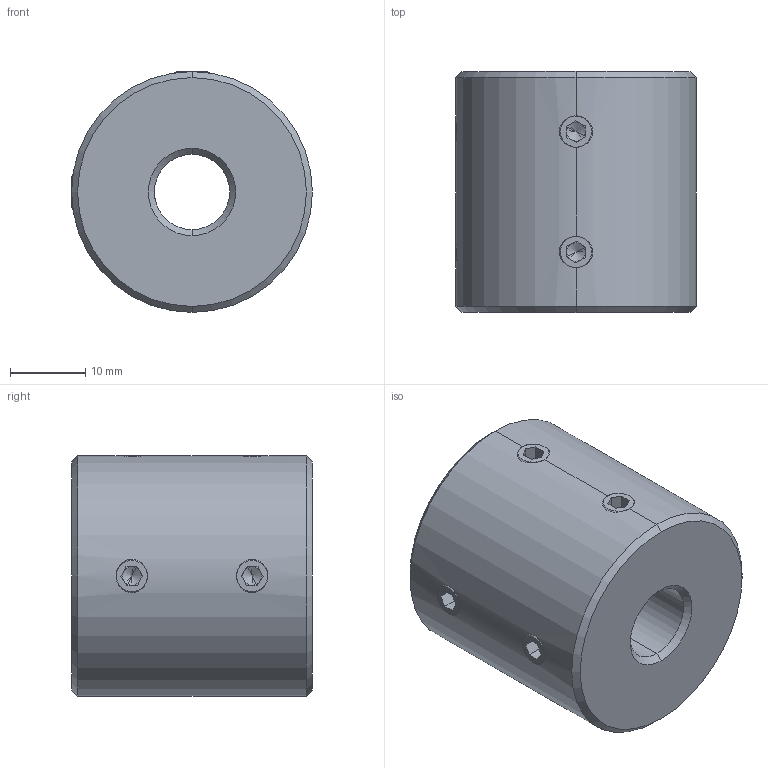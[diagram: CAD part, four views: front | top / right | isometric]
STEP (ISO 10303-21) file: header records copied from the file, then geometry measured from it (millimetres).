
FILE_DESCRIPTION (( 'STEP AP214' ), '1' );
FILE_NAME ('LL-D-D32L32-10-10½¨Ä£.STEP', '2022-07-22T11:28:16', ( '' ), ( '' ), 'SwSTEP 2.0', 'SolidWorks 2022', '' );
FILE_SCHEMA (( 'AUTOMOTIVE_DESIGN' ));
Length unit declared in the file: millimetre
Products named in the file (1): LL-D-D32L32-10-10膘耀
Bounding box: 32 x 32 x 32 mm (x, y, z)
Volume: 22916.6 mm3; surface area: 5819 mm2
Topology: 1 solids, 1 shells, 110 faces, 280 edges, 172 vertices
Faces by surface type: plane 58, cone 32, cylinder 20
Entity records: 3670 total; most frequent: CARTESIAN_POINT 1027, ORIENTED_EDGE 544, DIRECTION 542, EDGE_CURVE 272, AXIS2_PLACEMENT_3D 199, VERTEX_POINT 172, LINE 144, VECTOR 144
